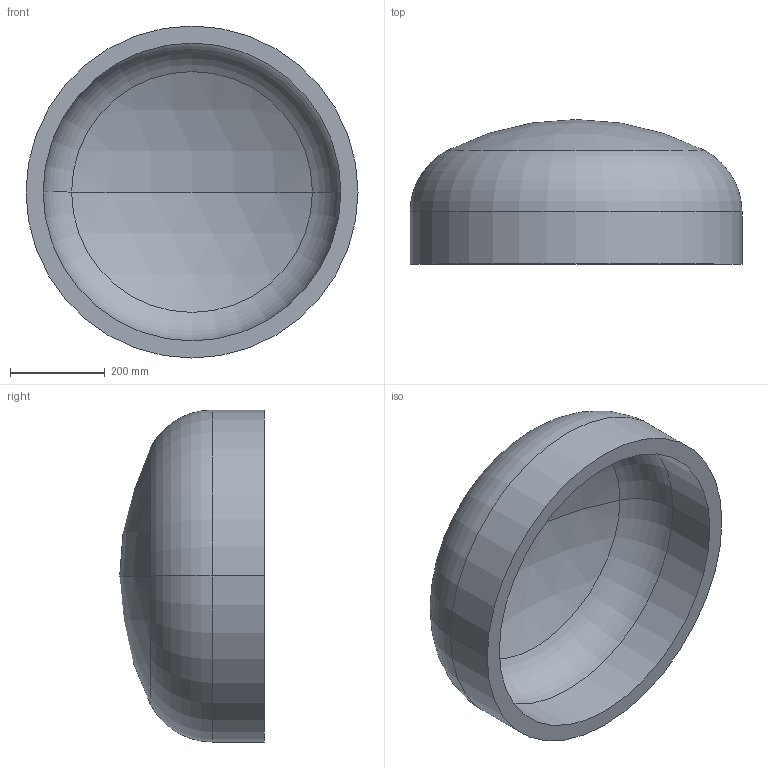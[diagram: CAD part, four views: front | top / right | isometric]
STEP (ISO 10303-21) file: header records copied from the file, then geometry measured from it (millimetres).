
FILE_DESCRIPTION (( 'STEP AP203' ), '1' );
FILE_NAME ('DIN 28013 Korbbogenform_-_Boden DIN 28013 - 700 x 110 - I - s=36.step', '2016-07-01T08:07:08', ( '' ), ( '' ), 'SwSTEP 2.0', 'SolidWorks 2013', '' );
FILE_SCHEMA (( 'CONFIG_CONTROL_DESIGN' ));
Length unit declared in the file: millimetre
Products named in the file (1): DIN 28013 Korbbogenform_-_Boden DIN 28013 - 700 x 110 - I - s=36
Bounding box: 700 x 304.9 x 700 mm (x, y, z)
Volume: 26298255.3 mm3; surface area: 1538824.9 mm2
Topology: 1 solids, 1 shells, 13 faces, 24 edges, 14 vertices
Faces by surface type: torus 4, cylinder 4, sphere 4, plane 1
Entity records: 407 total; most frequent: DIRECTION 72, CARTESIAN_POINT 52, ORIENTED_EDGE 48, AXIS2_PLACEMENT_3D 34, EDGE_CURVE 24, CIRCLE 20, VERTEX_POINT 14, EDGE_LOOP 14
